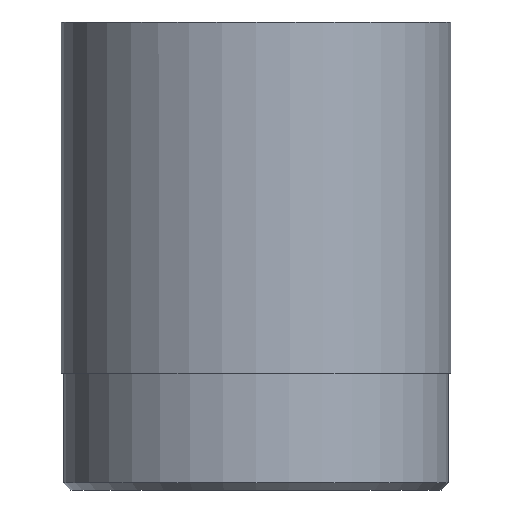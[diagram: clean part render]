
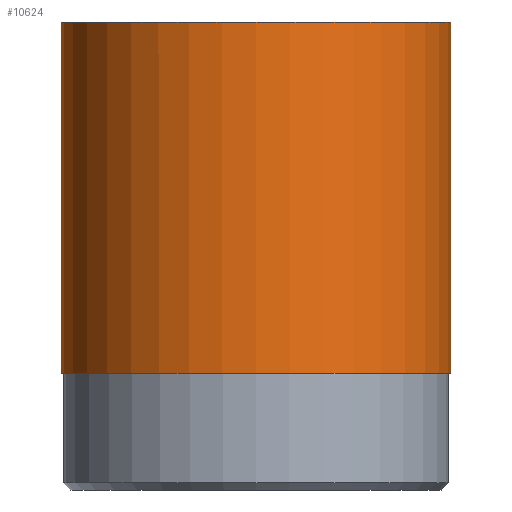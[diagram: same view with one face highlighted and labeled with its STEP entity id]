
A CAD part, front view. The second image highlights one B-rep face of the part: STEP entity #10624.
In plain terms, the highlighted cylindrical face has radius 5 mm (diameter 10 mm), a partial arc.
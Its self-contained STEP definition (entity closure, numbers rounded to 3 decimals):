
#14 = ORIENTED_EDGE ( 'NONE', *, *, #10431, .T. ) ;
#798 = LINE ( 'NONE', #8131, #11524 ) ;
#1462 = AXIS2_PLACEMENT_3D ( 'NONE', #8943, #8227, #8049 ) ;
#1506 = EDGE_CURVE ( 'NONE', #2567, #6376, #9241, .T. ) ;
#1831 = LINE ( 'NONE', #5811, #3918 ) ;
#1979 = ORIENTED_EDGE ( 'NONE', *, *, #1506, .F. ) ;
#2060 = DIRECTION ( 'NONE',  ( 0., 0., 1. ) ) ;
#2567 = VERTEX_POINT ( 'NONE', #5162 ) ;
#2569 = FACE_OUTER_BOUND ( 'NONE', #2875, .T. ) ;
#2875 = EDGE_LOOP ( 'NONE', ( #8941, #7221, #14, #1979 ) ) ;
#3447 = CARTESIAN_POINT ( 'NONE',  ( 0., 0., -9. ) ) ;
#3918 = VECTOR ( 'NONE', #2060, 1000. ) ;
#4098 = AXIS2_PLACEMENT_3D ( 'NONE', #6028, #6986, #7041 ) ;
#4117 = AXIS2_PLACEMENT_3D ( 'NONE', #3447, #5957, #8700 ) ;
#4417 = CYLINDRICAL_SURFACE ( 'NONE', #1462, 5. ) ;
#4435 = DIRECTION ( 'NONE',  ( 0., 0., 1. ) ) ;
#5162 = CARTESIAN_POINT ( 'NONE',  ( -5., 0., 0. ) ) ;
#5735 = CARTESIAN_POINT ( 'NONE',  ( -5., 0., -9. ) ) ;
#5811 = CARTESIAN_POINT ( 'NONE',  ( -5., 0., 3.798 ) ) ;
#5813 = VERTEX_POINT ( 'NONE', #7600 ) ;
#5957 = DIRECTION ( 'NONE',  ( 0., 0., -1. ) ) ;
#5968 = VERTEX_POINT ( 'NONE', #5735 ) ;
#6028 = CARTESIAN_POINT ( 'NONE',  ( 0., 0., 0. ) ) ;
#6376 = VERTEX_POINT ( 'NONE', #10167 ) ;
#6986 = DIRECTION ( 'NONE',  ( 0., 0., 1. ) ) ;
#7041 = DIRECTION ( 'NONE',  ( 1., 0., 0. ) ) ;
#7221 = ORIENTED_EDGE ( 'NONE', *, *, #11415, .F. ) ;
#7600 = CARTESIAN_POINT ( 'NONE',  ( 5., 0., -9. ) ) ;
#8049 = DIRECTION ( 'NONE',  ( 1., 0., 0. ) ) ;
#8131 = CARTESIAN_POINT ( 'NONE',  ( 5., 0., 3.798 ) ) ;
#8227 = DIRECTION ( 'NONE',  ( 0., 0., 1. ) ) ;
#8574 = EDGE_CURVE ( 'NONE', #5968, #2567, #1831, .T. ) ;
#8700 = DIRECTION ( 'NONE',  ( -1., 0., 0. ) ) ;
#8941 = ORIENTED_EDGE ( 'NONE', *, *, #8574, .F. ) ;
#8943 = CARTESIAN_POINT ( 'NONE',  ( 0., 0., 3.798 ) ) ;
#9241 = CIRCLE ( 'NONE', #4098, 5. ) ;
#9643 = CIRCLE ( 'NONE', #4117, 5. ) ;
#10167 = CARTESIAN_POINT ( 'NONE',  ( 5., 0., 0. ) ) ;
#10431 = EDGE_CURVE ( 'NONE', #5813, #6376, #798, .T. ) ;
#10624 = ADVANCED_FACE ( 'NONE', ( #2569 ), #4417, .T. ) ;
#11415 = EDGE_CURVE ( 'NONE', #5813, #5968, #9643, .T. ) ;
#11524 = VECTOR ( 'NONE', #4435, 1000. ) ;
